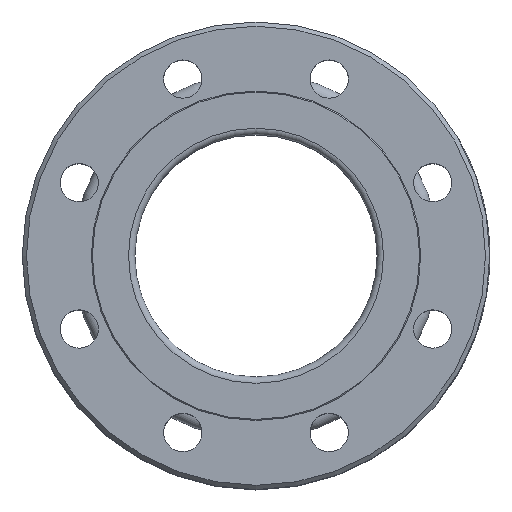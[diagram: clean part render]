
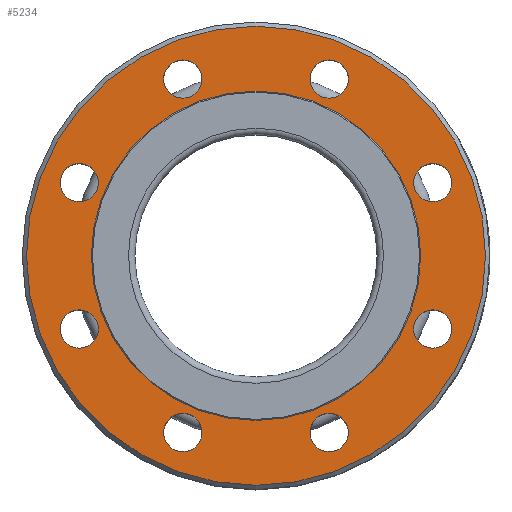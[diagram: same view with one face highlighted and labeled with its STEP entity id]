
A CAD part, top view. The second image highlights one B-rep face of the part: STEP entity #5234.
In plain terms, the highlighted planar face has unit normal (0, 0, 1).
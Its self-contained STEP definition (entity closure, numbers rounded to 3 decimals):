
#1052=FACE_BOUND('',#1644,.T.);
#1053=FACE_BOUND('',#1645,.T.);
#1054=FACE_BOUND('',#1646,.T.);
#1055=FACE_BOUND('',#1647,.T.);
#1056=FACE_BOUND('',#1648,.T.);
#1057=FACE_BOUND('',#1649,.T.);
#1058=FACE_BOUND('',#1650,.T.);
#1059=FACE_BOUND('',#1651,.T.);
#1060=FACE_BOUND('',#1652,.T.);
#1330=FACE_OUTER_BOUND('',#1643,.T.);
#1643=EDGE_LOOP('',(#4357));
#1644=EDGE_LOOP('',(#4358));
#1645=EDGE_LOOP('',(#4359));
#1646=EDGE_LOOP('',(#4360));
#1647=EDGE_LOOP('',(#4361));
#1648=EDGE_LOOP('',(#4362));
#1649=EDGE_LOOP('',(#4363));
#1650=EDGE_LOOP('',(#4364));
#1651=EDGE_LOOP('',(#4365));
#1652=EDGE_LOOP('',(#4366));
#1889=CIRCLE('',#5636,108.);
#1890=CIRCLE('',#5639,9.);
#1891=CIRCLE('',#5640,9.);
#1892=CIRCLE('',#5641,9.);
#1893=CIRCLE('',#5642,9.);
#1894=CIRCLE('',#5643,9.);
#1895=CIRCLE('',#5644,9.);
#1896=CIRCLE('',#5645,9.);
#1897=CIRCLE('',#5646,9.);
#1898=CIRCLE('',#5647,77.5);
#2383=VERTEX_POINT('',#11118);
#2384=VERTEX_POINT('',#11123);
#2385=VERTEX_POINT('',#11125);
#2386=VERTEX_POINT('',#11127);
#2387=VERTEX_POINT('',#11129);
#2388=VERTEX_POINT('',#11131);
#2389=VERTEX_POINT('',#11133);
#2390=VERTEX_POINT('',#11135);
#2391=VERTEX_POINT('',#11137);
#2392=VERTEX_POINT('',#11139);
#3051=EDGE_CURVE('',#2383,#2383,#1889,.T.);
#3053=EDGE_CURVE('',#2384,#2384,#1890,.T.);
#3054=EDGE_CURVE('',#2385,#2385,#1891,.T.);
#3055=EDGE_CURVE('',#2386,#2386,#1892,.T.);
#3056=EDGE_CURVE('',#2387,#2387,#1893,.T.);
#3057=EDGE_CURVE('',#2388,#2388,#1894,.T.);
#3058=EDGE_CURVE('',#2389,#2389,#1895,.T.);
#3059=EDGE_CURVE('',#2390,#2390,#1896,.T.);
#3060=EDGE_CURVE('',#2391,#2391,#1897,.T.);
#3061=EDGE_CURVE('',#2392,#2392,#1898,.T.);
#4357=ORIENTED_EDGE('',*,*,#3051,.T.);
#4358=ORIENTED_EDGE('',*,*,#3053,.F.);
#4359=ORIENTED_EDGE('',*,*,#3054,.F.);
#4360=ORIENTED_EDGE('',*,*,#3055,.F.);
#4361=ORIENTED_EDGE('',*,*,#3056,.F.);
#4362=ORIENTED_EDGE('',*,*,#3057,.F.);
#4363=ORIENTED_EDGE('',*,*,#3058,.F.);
#4364=ORIENTED_EDGE('',*,*,#3059,.F.);
#4365=ORIENTED_EDGE('',*,*,#3060,.F.);
#4366=ORIENTED_EDGE('',*,*,#3061,.F.);
#4635=PLANE('',#5638);
#5234=ADVANCED_FACE('',(#1330,#1052,#1053,#1054,#1055,#1056,#1057,#1058,
#1059,#1060),#4635,.F.);
#5636=AXIS2_PLACEMENT_3D('',#11119,#6714,#6715);
#5638=AXIS2_PLACEMENT_3D('',#11122,#6719,#6720);
#5639=AXIS2_PLACEMENT_3D('',#11124,#6721,#6722);
#5640=AXIS2_PLACEMENT_3D('',#11126,#6723,#6724);
#5641=AXIS2_PLACEMENT_3D('',#11128,#6725,#6726);
#5642=AXIS2_PLACEMENT_3D('',#11130,#6727,#6728);
#5643=AXIS2_PLACEMENT_3D('',#11132,#6729,#6730);
#5644=AXIS2_PLACEMENT_3D('',#11134,#6731,#6732);
#5645=AXIS2_PLACEMENT_3D('',#11136,#6733,#6734);
#5646=AXIS2_PLACEMENT_3D('',#11138,#6735,#6736);
#5647=AXIS2_PLACEMENT_3D('',#11140,#6737,#6738);
#6714=DIRECTION('center_axis',(0.,0.,1.));
#6715=DIRECTION('ref_axis',(0.,-1.,0.));
#6719=DIRECTION('center_axis',(0.,0.,-1.));
#6720=DIRECTION('ref_axis',(-1.,0.,0.));
#6721=DIRECTION('center_axis',(0.,0.,1.));
#6722=DIRECTION('ref_axis',(-1.,0.,0.));
#6723=DIRECTION('center_axis',(0.,0.,1.));
#6724=DIRECTION('ref_axis',(-1.,0.,0.));
#6725=DIRECTION('center_axis',(0.,0.,1.));
#6726=DIRECTION('ref_axis',(-1.,0.,0.));
#6727=DIRECTION('center_axis',(0.,0.,1.));
#6728=DIRECTION('ref_axis',(-1.,0.,0.));
#6729=DIRECTION('center_axis',(0.,0.,1.));
#6730=DIRECTION('ref_axis',(-1.,0.,0.));
#6731=DIRECTION('center_axis',(0.,0.,1.));
#6732=DIRECTION('ref_axis',(-1.,0.,0.));
#6733=DIRECTION('center_axis',(0.,0.,1.));
#6734=DIRECTION('ref_axis',(-1.,0.,0.));
#6735=DIRECTION('center_axis',(0.,0.,1.));
#6736=DIRECTION('ref_axis',(-1.,0.,0.));
#6737=DIRECTION('center_axis',(0.,0.,1.));
#6738=DIRECTION('ref_axis',(-1.,0.,0.));
#11118=CARTESIAN_POINT('',(0.,108.,60.));
#11119=CARTESIAN_POINT('Origin',(0.,0.,60.));
#11122=CARTESIAN_POINT('Origin',(0.,57.,60.));
#11123=CARTESIAN_POINT('',(92.149,34.442,60.));
#11124=CARTESIAN_POINT('Origin',(83.149,34.442,60.));
#11125=CARTESIAN_POINT('',(-74.149,34.442,60.));
#11126=CARTESIAN_POINT('Origin',(-83.149,34.442,60.));
#11127=CARTESIAN_POINT('',(43.442,-83.149,60.));
#11128=CARTESIAN_POINT('Origin',(34.442,-83.149,60.));
#11129=CARTESIAN_POINT('',(-74.149,-34.442,60.));
#11130=CARTESIAN_POINT('Origin',(-83.149,-34.442,60.));
#11131=CARTESIAN_POINT('',(43.442,83.149,60.));
#11132=CARTESIAN_POINT('Origin',(34.442,83.149,60.));
#11133=CARTESIAN_POINT('',(-25.442,83.149,60.));
#11134=CARTESIAN_POINT('Origin',(-34.442,83.149,60.));
#11135=CARTESIAN_POINT('',(92.149,-34.442,60.));
#11136=CARTESIAN_POINT('Origin',(83.149,-34.442,60.));
#11137=CARTESIAN_POINT('',(-25.442,-83.149,60.));
#11138=CARTESIAN_POINT('Origin',(-34.442,-83.149,60.));
#11139=CARTESIAN_POINT('',(-77.5,0.,60.));
#11140=CARTESIAN_POINT('Origin',(0.,0.,60.));
